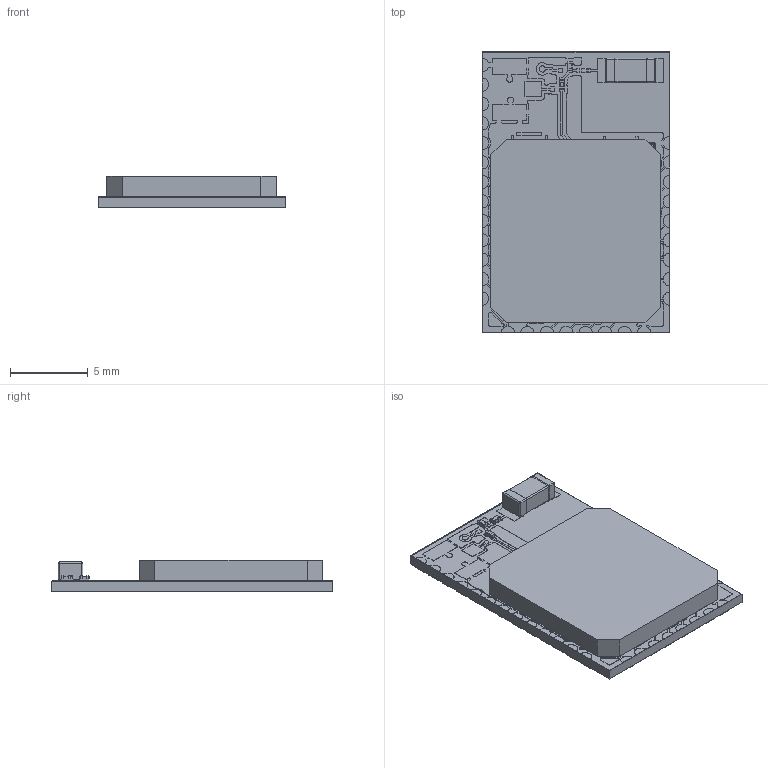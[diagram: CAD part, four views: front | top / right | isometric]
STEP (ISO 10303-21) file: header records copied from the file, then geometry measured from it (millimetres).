
FILE_DESCRIPTION(/* description */ (''),/* implementation_level */ '2;1');
FILE_NAME(/* name */ 'C:/Users/tohakkil/Documents/STEP models/Final module STEP models/BLE112-A.step',/* time_stamp */ '2019-09-24T14:33:47+03:00',/* author */ (''),/* organization */ (''),/* preprocessor_version */ 'ST-DEVELOPER v18',/* originating_system */ 'Autodesk Translation Framework v8.6.0.1094',/* authorisation */ '');
FILE_SCHEMA (('AUTOMOTIVE_DESIGN { 1 0 10303 214 3 1 1 }'));
Products named in the file (148): (Unsaved); DesignRootModel; uid__112; uid__111; uid__110; uid__109; uid__108; uid__107; uid__106; uid__105; uid__104; uid__103; uid__102; uid__101; uid__100; uid__99; uid__98; uid__97; uid__96; uid__95; uid__94; uid__93; uid__92; uid__91; uid__90; uid__89; uid__88; uid__87; uid__86; uid__85; uid__84; uid__83; uid__82; uid__81; uid__80; uid__79; uid__78; uid__77; uid__76; uid__75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
Assembly tree (158 placements, depth 5):
  (Unsaved)
    DesignRootModel
      uid__112
      uid__111
      uid__110
      uid__109
      uid__108
      uid__107
      uid__106
      uid__105
      uid__104
      uid__103
      uid__102
      uid__101
      uid__100
      uid__99
      uid__98
      uid__97
      uid__96
      uid__95
      uid__94
      uid__93
      uid__92
      uid__91
      uid__90
      uid__89
      uid__88
      uid__87
      uid__86
      uid__85
      uid__84
      uid__83
      uid__82
      uid__81
      uid__80
      uid__79
      uid__78
      uid__77
      uid__76
      uid__75
      uid__74
      uid__73
      uid__72
      uid__71
      uid__70
      uid__67
      uid__66
      uid__65
      uid__64
      uid__63
      uid__62
      uid__61
      uid__60
      uid__59
      uid__58
      uid__57
      uid__56
      uid__55
      uid__54
      uid__53
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Bounding box: 12.05 x 18.1 x 2 mm (x, y, z)
Volume: 325.4 mm3; surface area: 1973.7 mm2
Topology: 145 solids, 145 shells, 2744 faces, 7248 edges, 4794 vertices
Faces by surface type: plane 1661, cylinder 1035, sphere 48
Full cylindrical faces by diameter (mm): 0.4 x14, 0.447 x1
Entity records: 83771 total; most frequent: DIRECTION 14368, CARTESIAN_POINT 14118, ORIENTED_EDGE 13560, EDGE_CURVE 6780, LINE 4840, VECTOR 4840, AXIS2_PLACEMENT_3D 4764, VERTEX_POINT 4514
